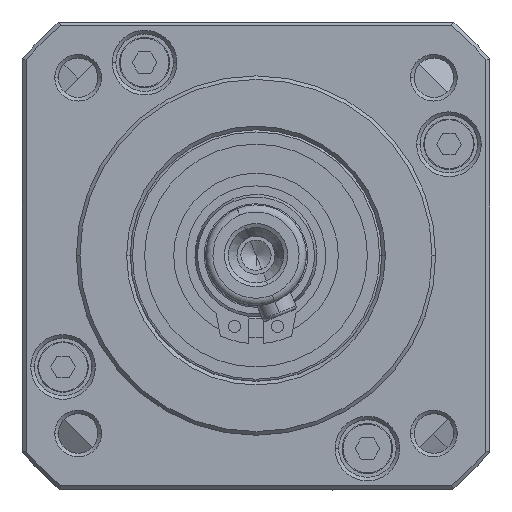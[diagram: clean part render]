
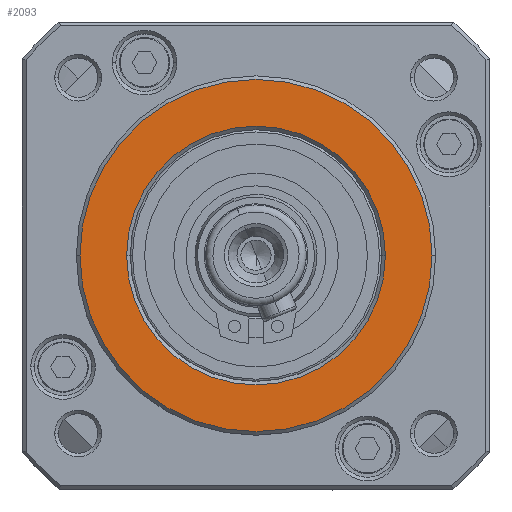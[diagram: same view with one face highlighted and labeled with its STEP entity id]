
A CAD part, top view. The second image highlights one B-rep face of the part: STEP entity #2093.
In plain terms, the highlighted planar face has unit normal (0, 0, 1).
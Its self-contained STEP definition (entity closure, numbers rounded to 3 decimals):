
#2093 = ADVANCED_FACE ( 'NONE', ( #23644, #26060 ), #22074, .F. ) ;
#6787 = VERTEX_POINT ( 'NONE', #19418 ) ;
#8577 = AXIS2_PLACEMENT_3D ( 'NONE', #14175, #22112, #10296 ) ;
#8810 = ORIENTED_EDGE ( 'NONE', *, *, #47749, .T. ) ;
#9257 = AXIS2_PLACEMENT_3D ( 'NONE', #21544, #40176, #13460 ) ;
#10296 = DIRECTION ( 'NONE',  ( -1., 0., 0. ) ) ;
#10927 = CARTESIAN_POINT ( 'NONE',  ( -2.147, 10.389, 76.75 ) ) ;
#11331 = DIRECTION ( 'NONE',  ( -1., 0., 0. ) ) ;
#12651 = DIRECTION ( 'NONE',  ( 0., 0., -1. ) ) ;
#12971 = EDGE_CURVE ( 'NONE', #27766, #6787, #31639, .T. ) ;
#13460 = DIRECTION ( 'NONE',  ( -1., 0., 0. ) ) ;
#14175 = CARTESIAN_POINT ( 'NONE',  ( -20.147, 10.389, 76.75 ) ) ;
#14714 = CARTESIAN_POINT ( 'NONE',  ( -20.147, 10.389, 76.75 ) ) ;
#16256 = VERTEX_POINT ( 'NONE', #10927 ) ;
#16514 = DIRECTION ( 'NONE',  ( -1., 0., 0. ) ) ;
#16526 = AXIS2_PLACEMENT_3D ( 'NONE', #35664, #12651, #16514 ) ;
#19418 = CARTESIAN_POINT ( 'NONE',  ( -44.647, 10.389, 76.75 ) ) ;
#20501 = AXIS2_PLACEMENT_3D ( 'NONE', #41354, #41030, #25744 ) ;
#21544 = CARTESIAN_POINT ( 'NONE',  ( -20.147, 10.389, 76.75 ) ) ;
#22074 = PLANE ( 'NONE',  #20501 ) ;
#22112 = DIRECTION ( 'NONE',  ( 0., 0., -1. ) ) ;
#23644 = FACE_BOUND ( 'NONE', #46492, .T. ) ;
#25744 = DIRECTION ( 'NONE',  ( -1., 0., 0. ) ) ;
#26060 = FACE_OUTER_BOUND ( 'NONE', #32200, .T. ) ;
#27766 = VERTEX_POINT ( 'NONE', #45164 ) ;
#28914 = EDGE_CURVE ( 'NONE', #44625, #16256, #31658, .T. ) ;
#31211 = ORIENTED_EDGE ( 'NONE', *, *, #12971, .T. ) ;
#31639 = CIRCLE ( 'NONE', #9257, 24.5 ) ;
#31658 = CIRCLE ( 'NONE', #8577, 18. ) ;
#32200 = EDGE_LOOP ( 'NONE', ( #8810, #31211 ) ) ;
#35221 = EDGE_CURVE ( 'NONE', #16256, #44625, #41704, .T. ) ;
#35664 = CARTESIAN_POINT ( 'NONE',  ( -20.147, 10.389, 76.75 ) ) ;
#39506 = ORIENTED_EDGE ( 'NONE', *, *, #35221, .T. ) ;
#40176 = DIRECTION ( 'NONE',  ( 0., 0., 1. ) ) ;
#41030 = DIRECTION ( 'NONE',  ( 0., 0., -1. ) ) ;
#41354 = CARTESIAN_POINT ( 'NONE',  ( -20.147, 10.389, 76.75 ) ) ;
#41704 = CIRCLE ( 'NONE', #16526, 18. ) ;
#43975 = CIRCLE ( 'NONE', #46898, 24.5 ) ;
#44625 = VERTEX_POINT ( 'NONE', #46457 ) ;
#45164 = CARTESIAN_POINT ( 'NONE',  ( 4.353, 10.389, 76.75 ) ) ;
#45623 = ORIENTED_EDGE ( 'NONE', *, *, #28914, .T. ) ;
#45756 = DIRECTION ( 'NONE',  ( 0., 0., 1. ) ) ;
#46457 = CARTESIAN_POINT ( 'NONE',  ( -38.147, 10.389, 76.75 ) ) ;
#46492 = EDGE_LOOP ( 'NONE', ( #39506, #45623 ) ) ;
#46898 = AXIS2_PLACEMENT_3D ( 'NONE', #14714, #45756, #11331 ) ;
#47749 = EDGE_CURVE ( 'NONE', #6787, #27766, #43975, .T. ) ;
